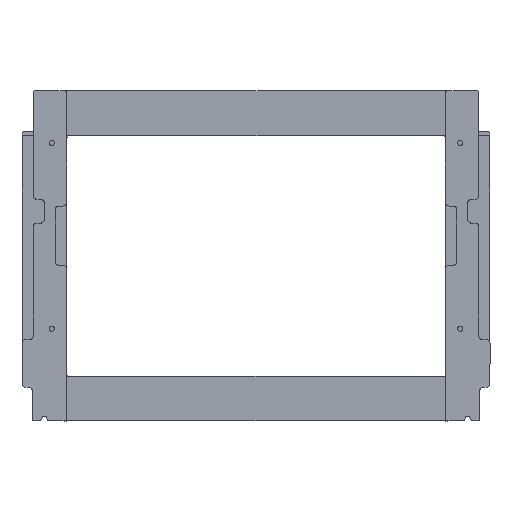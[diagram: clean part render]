
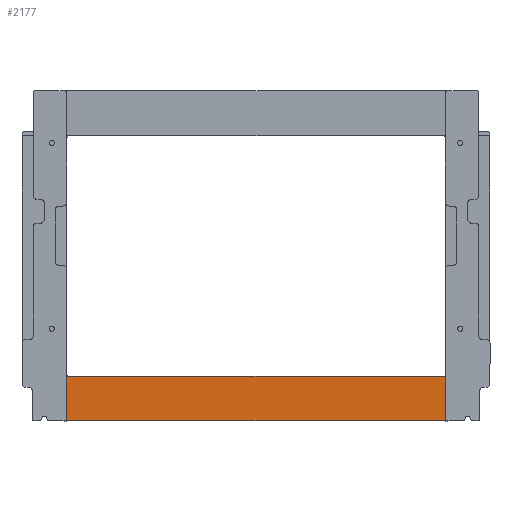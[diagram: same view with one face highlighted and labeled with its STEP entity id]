
A CAD part, top view. The second image highlights one B-rep face of the part: STEP entity #2177.
In plain terms, the highlighted planar face has unit normal (0, 0, 1) as drawn and (-1, 0, 0) by its records, which use the part's own axes.
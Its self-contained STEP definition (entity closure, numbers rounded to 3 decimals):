
#209=PLANE('',#2489);
#295=FACE_OUTER_BOUND('',#417,.T.);
#417=EDGE_LOOP('',(#1758,#1759,#1760,#1761));
#588=LINE('',#3599,#761);
#589=LINE('',#3601,#762);
#590=LINE('',#3603,#763);
#591=LINE('',#3604,#764);
#761=VECTOR('',#2943,10.);
#762=VECTOR('',#2944,10.);
#763=VECTOR('',#2945,10.);
#764=VECTOR('',#2946,10.);
#1035=VERTEX_POINT('',#3597);
#1036=VERTEX_POINT('',#3598);
#1037=VERTEX_POINT('',#3600);
#1038=VERTEX_POINT('',#3602);
#1296=EDGE_CURVE('',#1035,#1036,#588,.T.);
#1297=EDGE_CURVE('',#1036,#1037,#589,.T.);
#1298=EDGE_CURVE('',#1038,#1037,#590,.T.);
#1299=EDGE_CURVE('',#1035,#1038,#591,.T.);
#1758=ORIENTED_EDGE('',*,*,#1296,.T.);
#1759=ORIENTED_EDGE('',*,*,#1297,.T.);
#1760=ORIENTED_EDGE('',*,*,#1298,.F.);
#1761=ORIENTED_EDGE('',*,*,#1299,.F.);
#2177=ADVANCED_FACE('',(#295),#209,.T.);
#2489=AXIS2_PLACEMENT_3D('',#3596,#2941,#2942);
#2941=DIRECTION('center_axis',(-1.,0.,0.));
#2942=DIRECTION('ref_axis',(0.,-1.,0.));
#2943=DIRECTION('',(0.,-1.,0.));
#2944=DIRECTION('',(0.,0.,1.));
#2945=DIRECTION('',(0.,-1.,0.));
#2946=DIRECTION('',(0.,0.,1.));
#3596=CARTESIAN_POINT('Origin',(0.,60.,0.));
#3597=CARTESIAN_POINT('',(0.,60.,0.));
#3598=CARTESIAN_POINT('',(0.,0.,0.));
#3599=CARTESIAN_POINT('',(0.,60.,0.));
#3600=CARTESIAN_POINT('',(0.,0.,510.));
#3601=CARTESIAN_POINT('',(0.,0.,0.));
#3602=CARTESIAN_POINT('',(0.,60.,510.));
#3603=CARTESIAN_POINT('',(0.,60.,510.));
#3604=CARTESIAN_POINT('',(0.,60.,0.));
